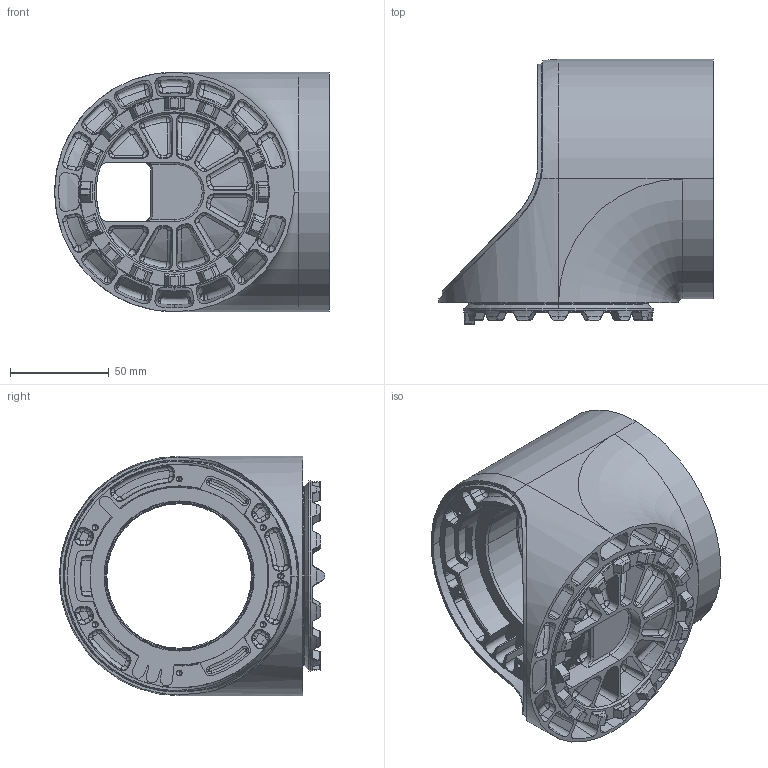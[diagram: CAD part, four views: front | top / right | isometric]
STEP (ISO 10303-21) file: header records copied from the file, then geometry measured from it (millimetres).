
FILE_DESCRIPTION (( 'STEP AP214' ), '1' );
FILE_NAME ('RC.010.25.110.001_Êîðïóñ øàðíèðà 25.step', '2026-06-16T07:05:27', ( '' ), ( '' ), 'SwSTEP 2.0', 'SolidWorks 2022', '' );
FILE_SCHEMA (( 'AUTOMOTIVE_DESIGN' ));
Length unit declared in the file: millimetre
Products named in the file (1): RC.010.25.110.001_Корпус шарнира 25
Bounding box: 138.7 x 134 x 121 mm (x, y, z)
Volume: 379513.2 mm3; surface area: 125359.1 mm2
Topology: 1 solids, 1 shells, 1833 faces, 4566 edges, 2752 vertices
Faces by surface type: cone 477, bspline 470, torus 330, plane 270, cylinder 223, sphere 63
Entity records: 86652 total; most frequent: CARTESIAN_POINT 46521, ORIENTED_EDGE 9016, DIRECTION 7766, EDGE_CURVE 4508, AXIS2_PLACEMENT_3D 3358, VERTEX_POINT 2751, CIRCLE 1994, EDGE_LOOP 1911
